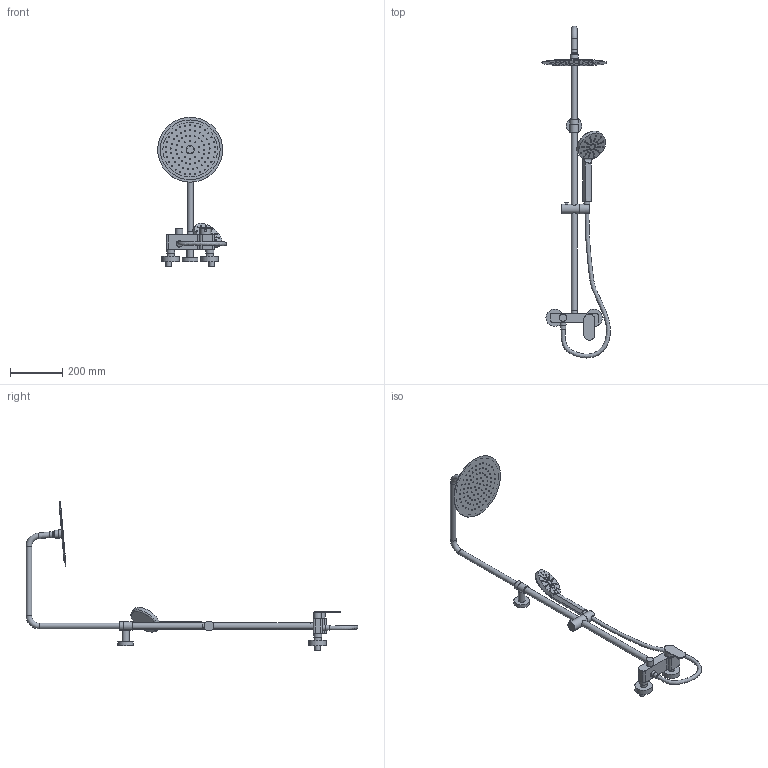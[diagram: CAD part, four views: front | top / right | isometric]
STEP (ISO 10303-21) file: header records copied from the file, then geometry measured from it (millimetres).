
FILE_DESCRIPTION(/* description */ (''),/* implementation_level */ '2;1');
FILE_NAME(/* name */ 'C:\Nextcloud\02_biblioteki_cad\Valvex\Projekt\PROJECTS\Eksport\ETAP 1\ponowny eksport\2455700\2455700.stp',/* time_stamp */ '2021-07-16T13:57:30+02:00',/* author */ ('Gabriela W.'),/* organization */ (''),/* preprocessor_version */ 'ST-DEVELOPER v18.1',/* originating_system */ 'Autodesk Inventor 2020',/* authorisation */ '');
FILE_SCHEMA (('AUTOMOTIVE_DESIGN { 1 0 10303 214 3 1 1 }'));
Length unit declared in the file: millimetre
Products named in the file (10): 2455700; 2455700_rura_1; 2455700_przylacze_katowe_1; 2455700_deszczownica_1; 2455700_uchwyt_sluchwaki_1; 2455700_bateria_1; 2455700_waz_1; 2455700_sluchawka_1; 2455700_dysza_sluchawka_1; 2455700_dysza_deszczownica
Assembly tree (9 placements, depth 2):
  2455700
    2455700_rura_1
    2455700_przylacze_katowe_1
    2455700_deszczownica_1
    2455700_uchwyt_sluchwaki_1
    2455700_bateria_1
    2455700_waz_1
    2455700_sluchawka_1
    2455700_dysza_sluchawka_1
    2455700_dysza_deszczownica
Bounding box: 263.91 x 1274.77 x 573.97 mm (x, y, z)
Volume: 2189138.6 mm3; surface area: 428529.8 mm2
Topology: 141 solids, 141 shells, 647 faces, 1268 edges, 931 vertices
Faces by surface type: plane 406, cylinder 137, cone 95, bspline 6, torus 3
Full cylindrical faces by diameter (mm): 5 x8, 9 x1, 14 x1, 18 x1, 21 x10, 22 x4, 23 x1, 24 x3, 26 x1, 27 x2, 31 x3, 32 x1, 33 x2, 38 x2, 42 x1, 60 x1, 67 x2, 250 x1
Entity records: 19395 total; most frequent: CARTESIAN_POINT 4853, DIRECTION 3258, ORIENTED_EDGE 2540, AXIS2_PLACEMENT_3D 1382, EDGE_CURVE 1270, VERTEX_POINT 931, CIRCLE 721, EDGE_LOOP 679
